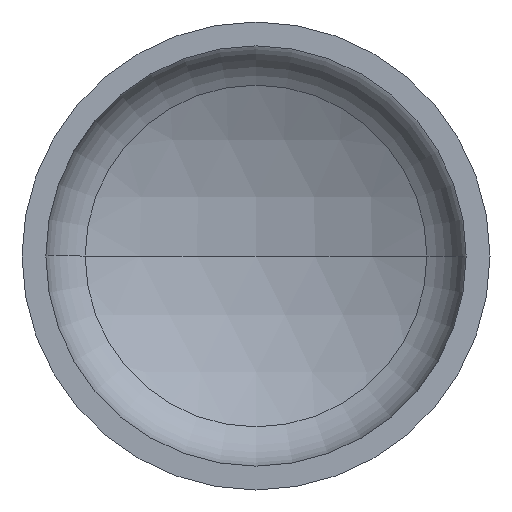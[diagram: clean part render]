
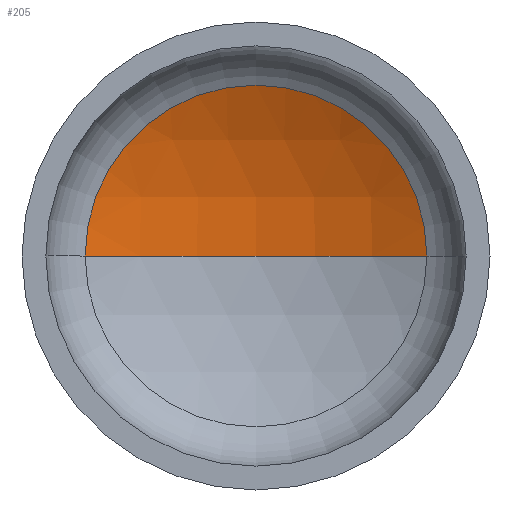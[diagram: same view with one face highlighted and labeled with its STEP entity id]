
A CAD part, front view. The second image highlights one B-rep face of the part: STEP entity #205.
In plain terms, the highlighted spherical face has radius 1760 mm.
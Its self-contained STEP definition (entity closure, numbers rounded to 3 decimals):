
#1 = AXIS2_PLACEMENT_3D ( 'NONE', #130, #150, #155 ) ;
#4 = EDGE_LOOP ( 'NONE', ( #78, #36, #94 ) ) ;
#7 = AXIS2_PLACEMENT_3D ( 'NONE', #159, #377, #277 ) ;
#10 = VERTEX_POINT ( 'NONE', #270 ) ;
#22 = DIRECTION ( 'NONE',  ( 1., 0., 0. ) ) ;
#29 = AXIS2_PLACEMENT_3D ( 'NONE', #191, #250, #183 ) ;
#36 = ORIENTED_EDGE ( 'NONE', *, *, #353, .T. ) ;
#45 = VERTEX_POINT ( 'NONE', #292 ) ;
#55 = AXIS2_PLACEMENT_3D ( 'NONE', #276, #208, #22 ) ;
#78 = ORIENTED_EDGE ( 'NONE', *, *, #354, .F. ) ;
#94 = ORIENTED_EDGE ( 'NONE', *, *, #118, .T. ) ;
#98 = VERTEX_POINT ( 'NONE', #199 ) ;
#118 = EDGE_CURVE ( 'NONE', #10, #45, #142, .T. ) ;
#130 = CARTESIAN_POINT ( 'NONE',  ( 0., -1188.525, 0. ) ) ;
#142 = CIRCLE ( 'NONE', #55, 803.155 ) ;
#150 = DIRECTION ( 'NONE',  ( 0., 0., 1. ) ) ;
#155 = DIRECTION ( 'NONE',  ( 1., 0., 0. ) ) ;
#159 = CARTESIAN_POINT ( 'NONE',  ( 0., -1188.525, 0. ) ) ;
#183 = DIRECTION ( 'NONE',  ( -1., 0., 0. ) ) ;
#191 = CARTESIAN_POINT ( 'NONE',  ( 0., -1188.525, 0. ) ) ;
#196 = FACE_OUTER_BOUND ( 'NONE', #4, .T. ) ;
#199 = CARTESIAN_POINT ( 'NONE',  ( 0., 571.475, 0. ) ) ;
#203 = SPHERICAL_SURFACE ( 'NONE', #29, 1760. ) ;
#205 = ADVANCED_FACE ( 'NONE', ( #196 ), #203, .F. ) ;
#208 = DIRECTION ( 'NONE',  ( 0., -1., 0. ) ) ;
#250 = DIRECTION ( 'NONE',  ( 0., 0., -1. ) ) ;
#270 = CARTESIAN_POINT ( 'NONE',  ( 803.155, 377.534, 0. ) ) ;
#276 = CARTESIAN_POINT ( 'NONE',  ( 0., 377.534, 0. ) ) ;
#277 = DIRECTION ( 'NONE',  ( -1., 0., 0. ) ) ;
#292 = CARTESIAN_POINT ( 'NONE',  ( -803.155, 377.534, 0. ) ) ;
#353 = EDGE_CURVE ( 'NONE', #98, #10, #361, .T. ) ;
#354 = EDGE_CURVE ( 'NONE', #98, #45, #404, .T. ) ;
#361 = CIRCLE ( 'NONE', #7, 1760. ) ;
#377 = DIRECTION ( 'NONE',  ( 0., 0., -1. ) ) ;
#404 = CIRCLE ( 'NONE', #1, 1760. ) ;
